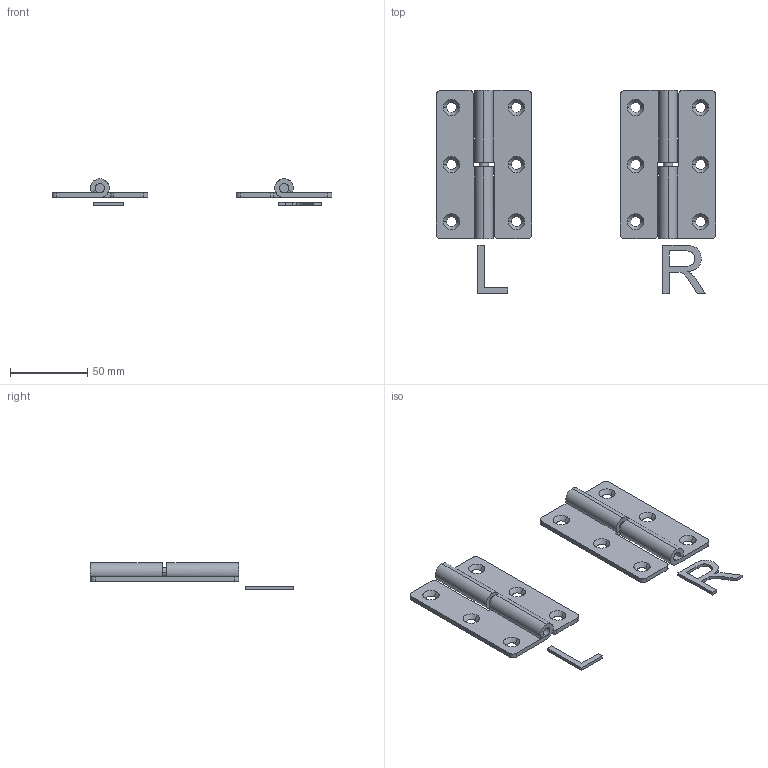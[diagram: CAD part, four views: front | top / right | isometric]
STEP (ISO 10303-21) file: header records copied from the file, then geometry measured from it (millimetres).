
FILE_DESCRIPTION(/* description */ (''),/* implementation_level */ '2;1');
FILE_NAME(/* name */ 'JL305-2',/* time_stamp */ '2025-03-19T09:42:28+08:00',/* author */ (''),/* organization */ (''),/* preprocessor_version */ 'ST-DEVELOPER v19.2',/* originating_system */ 'Rhino 8.5',/* authorisation */ '');
FILE_SCHEMA (('CONFIG_CONTROL_DESIGN'));
Length unit declared in the file: millimetre
Products named in the file (1): Document
Bounding box: 181.29 x 131.5 x 17.02 mm (x, y, z)
Volume: 48542.3 mm3; surface area: 38115.6 mm2
Topology: 8 solids, 8 shells, 118 faces, 306 edges, 204 vertices
Faces by surface type: plane 57, cylinder 32, bspline 29
Entity records: 4299 total; most frequent: CARTESIAN_POINT 1715, ORIENTED_EDGE 612, EDGE_CURVE 306, DIRECTION 301, VERTEX_POINT 204, AXIS2_PLACEMENT_3D 195, B_SPLINE_CURVE_WITH_KNOTS 158, EDGE_LOOP 144
